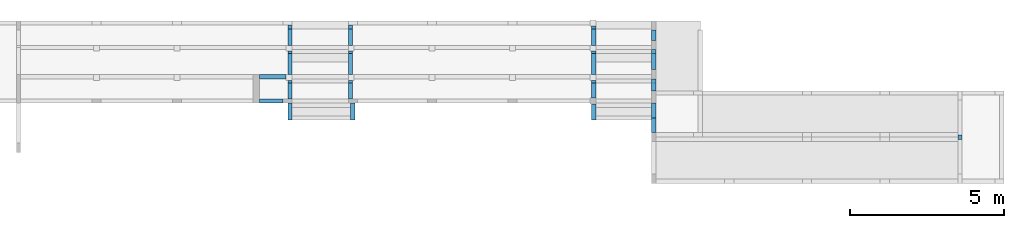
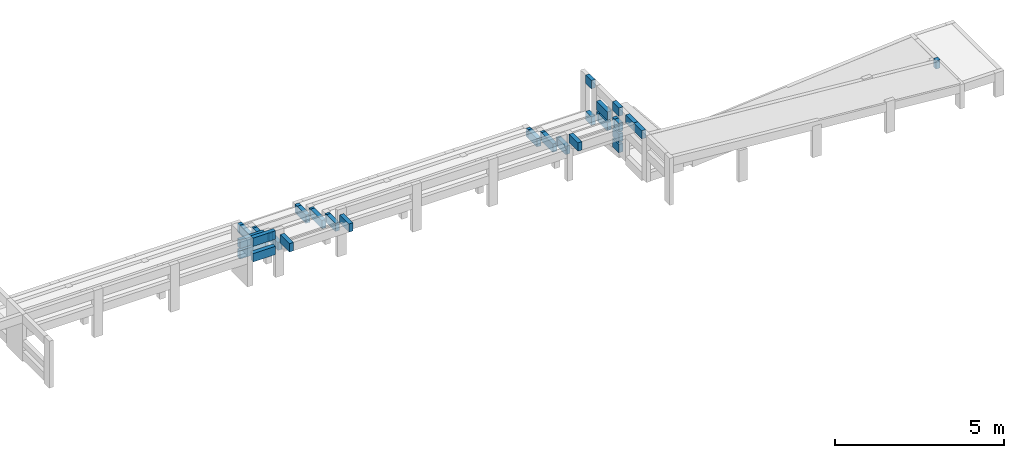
# One storey, part 7 of 9: 38 beams.
"""IFC4 building model written with IfcOpenShell, lengths in centimetres."""

from ifc_helpers import new_model, si_unit, derived_unit, frame, origin_with_axes, origin_2d_with_axis, place, context, project, spatial, rectangle, extrude, material, element, save


model = new_model("IFC4")

# Units and contexts
model_context = context("Model", 3, precision=1e-05, world=origin_with_axes(), identifier="Body")
ifc_project = project(units=[si_unit("LENGTHUNIT", "METRE", prefix="CENTI"), si_unit("VOLUMEUNIT", "CUBIC_METRE"), si_unit("AREAUNIT", "SQUARE_METRE"), si_unit("POWERUNIT", "WATT"), si_unit("LUMINOUSFLUXUNIT", "LUMEN"), si_unit("ELECTRICCURRENTUNIT", "AMPERE"), si_unit("PRESSUREUNIT", "PASCAL", prefix="KILO"), si_unit("MASSUNIT", "GRAM", prefix="KILO"), si_unit("PLANEANGLEUNIT", "RADIAN"), derived_unit("VOLUMETRICFLOWRATEUNIT", [(si_unit("LENGTHUNIT", "METRE"), 3), (si_unit("TIMEUNIT", "SECOND"), -1)])], contexts=[model_context])

# Site, building, storey
site_placement = place(None, origin_with_axes())
site = spatial("IfcSite", under=ifc_project, at=site_placement)
building_placement = place(site_placement, frame((0.0, 0.0, -170.0)))
building = spatial("IfcBuilding", under=site, at=building_placement)
placement = place(building_placement, origin_with_axes())
storey_placement = place(placement, frame((0.0, 0.0, 170.0), z_axis=(0.0, 0.0, 1.0), x_axis=(1.0, 0.0, 0.0)))
storey = spatial("IfcBuildingStorey", under=building, at=storey_placement, Name="Arquibancada", CompositionType="ELEMENT", Elevation=0.0)

# Beams
ifc_material = material(Name="Concreto")
beam_1_placement = place(storey_placement, frame((4820.12, 52.25, 0.0), z_axis=(0.0, 0.0, 1.0), x_axis=(1.0, 0.0, 0.0)))
element("IfcBeam", 1, at=beam_1_placement, inside=storey, material=ifc_material, Name="V10", context=model_context, shape_type="SolidModel", body=[
    extrude(rectangle(XDim=14.0, YDim=30.0, at=origin_2d_with_axis()), frame((0.0, -23.75, -15.0), z_axis=(0.0, 1.0, 0.0), x_axis=(1.0, 0.0, 0.0)), (0.0, 0.0, 1.0), 47.5),
])
beam_2_placement = place(storey_placement, frame((4820.12, 345.0, 0.0), z_axis=(0.0, 0.0, 1.0), x_axis=(1.0, 0.0, 0.0)))
element("IfcBeam", 2, at=beam_2_placement, inside=storey, material=ifc_material, Name="V10", context=model_context, shape_type="SolidModel", body=[
    extrude(rectangle(XDim=14.0, YDim=30.0, at=origin_2d_with_axis()), frame((0.0, -17.0, -15.0), z_axis=(0.0, 1.0, 0.0), x_axis=(1.0, 0.0, 0.0)), (0.0, 0.0, 1.0), 34.0),
])
beam_3_placement = place(storey_placement, frame((4820.12, 183.5, 0.0), z_axis=(0.0, 0.0, 1.0), x_axis=(1.0, 0.0, 0.0)))
element("IfcBeam", 3, at=beam_3_placement, inside=storey, material=ifc_material, Name="V10", context=model_context, shape_type="SolidModel", body=[
    extrude(rectangle(XDim=14.0, YDim=30.0, at=origin_2d_with_axis()), frame((0.0, -19.5, -15.0), z_axis=(0.0, 1.0, 0.0), x_axis=(1.0, 0.0, 0.0)), (0.0, 0.0, 1.0), 39.0),
])
beam_4_placement = place(storey_placement, frame((4820.12, 100.0, 0.0), z_axis=(0.0, 0.0, 1.0), x_axis=(1.0, 0.0, 0.0)))
element("IfcBeam", 4, at=beam_4_placement, inside=storey, material=ifc_material, Name="V10", context=model_context, shape_type="SolidModel", body=[
    extrude(rectangle(XDim=14.0, YDim=30.0, at=origin_2d_with_axis()), frame((0.0, -24.0, -15.0), z_axis=(0.0, 1.0, 0.0), x_axis=(1.0, 0.0, 0.0)), (0.0, 0.0, 1.0), 48.0),
])
beam_5_placement = place(storey_placement, frame((4624.62, 338.5, -132.0), z_axis=(0.0, 0.0, 1.0), x_axis=(1.0, 0.0, 0.0)))
element("IfcBeam", 5, at=beam_5_placement, inside=storey, material=ifc_material, Name="V100", context=model_context, shape_type="SolidModel", body=[
    extrude(rectangle(XDim=14.0, YDim=30.0, at=origin_2d_with_axis()), frame((0.0, -26.5, -15.0), z_axis=(0.0, 1.0, 0.0), x_axis=(1.0, 0.0, 0.0)), (0.0, 0.0, 1.0), 53.0),
])
beam_6_placement = place(storey_placement, frame((4624.62, 370.25, -132.0), z_axis=(0.0, 0.0, 1.0), x_axis=(1.0, 0.0, 0.0)))
element("IfcBeam", 6, at=beam_6_placement, inside=storey, material=ifc_material, Name="V100", context=model_context, shape_type="SolidModel", body=[
    extrude(rectangle(XDim=14.0, YDim=30.0, at=origin_2d_with_axis()), frame((0.0, -5.25, -15.0), z_axis=(0.0, 1.0, 0.0), x_axis=(1.0, 0.0, 0.0)), (0.0, 0.0, 1.0), 10.5),
])
beam_7_placement = place(storey_placement, frame((3637.09, 371.5, -132.0), z_axis=(0.0, 0.0, 1.0), x_axis=(1.0, 0.0, 0.0)))
element("IfcBeam", 7, at=beam_7_placement, inside=storey, material=ifc_material, Name="V101", context=model_context, shape_type="SolidModel", body=[
    extrude(rectangle(XDim=14.0, YDim=30.0, at=origin_2d_with_axis()), frame((0.0, -6.5, -15.0), z_axis=(0.0, 1.0, 0.0), x_axis=(1.0, 0.0, 0.0)), (0.0, 0.0, 1.0), 13.0),
])
beam_8_placement = place(storey_placement, frame((3637.09, 338.5, -132.0), z_axis=(0.0, 0.0, 1.0), x_axis=(1.0, 0.0, 0.0)))
element("IfcBeam", 8, at=beam_8_placement, inside=storey, material=ifc_material, Name="V101", context=model_context, shape_type="SolidModel", body=[
    extrude(rectangle(XDim=14.0, YDim=30.0, at=origin_2d_with_axis()), frame((0.0, -26.5, -15.0), z_axis=(0.0, 1.0, 0.0), x_axis=(1.0, 0.0, 0.0)), (0.0, 0.0, 1.0), 53.0),
])
beam_9_placement = place(storey_placement, frame((3834.09, 371.5, -132.0), z_axis=(0.0, 0.0, 1.0), x_axis=(1.0, 0.0, 0.0)))
element("IfcBeam", 9, at=beam_9_placement, inside=storey, material=ifc_material, Name="V102", context=model_context, shape_type="SolidModel", body=[
    extrude(rectangle(XDim=14.0, YDim=30.0, at=origin_2d_with_axis()), frame((0.0, -6.5, -15.0), z_axis=(0.0, 1.0, 0.0), x_axis=(1.0, 0.0, 0.0)), (0.0, 0.0, 1.0), 13.0),
])
beam_10_placement = place(storey_placement, frame((3834.09, 338.5, -132.0), z_axis=(0.0, 0.0, 1.0), x_axis=(1.0, 0.0, 0.0)))
element("IfcBeam", 10, at=beam_10_placement, inside=storey, material=ifc_material, Name="V102", context=model_context, shape_type="SolidModel", body=[
    extrude(rectangle(XDim=14.0, YDim=30.0, at=origin_2d_with_axis()), frame((0.0, -26.5, -15.0), z_axis=(0.0, 1.0, 0.0), x_axis=(1.0, 0.0, 0.0)), (0.0, 0.0, 1.0), 53.0),
])
beam_11_placement = place(storey_placement, frame((3581.325, 210.0, -56.0), z_axis=(0.0, 0.0, 1.0), x_axis=(1.0, 0.0, 0.0)))
element("IfcBeam", 11, at=beam_11_placement, inside=storey, material=ifc_material, Name="V20", context=model_context, shape_type="SolidModel", body=[
    extrude(rectangle(XDim=14.0, YDim=30.0, at=origin_2d_with_axis()), frame((-43.765, 0.0, -15.0), z_axis=(1.0, 0.0, 0.0), x_axis=(0.0, 1.0, 0.0)), (0.0, 0.0, 1.0), 87.53),
])
beam_12_placement = place(storey_placement, frame((3575.825, 131.0, -56.0), z_axis=(0.0, 0.0, 1.0), x_axis=(1.0, 0.0, 0.0)))
element("IfcBeam", 12, at=beam_12_placement, inside=storey, material=ifc_material, Name="V24", context=model_context, shape_type="SolidModel", body=[
    extrude(rectangle(XDim=14.0, YDim=30.0, at=origin_2d_with_axis()), frame((-38.265, 0.0, -15.0), z_axis=(1.0, 0.0, 0.0), x_axis=(0.0, 1.0, 0.0)), (0.0, 0.0, 1.0), 76.53),
])
beam_13_placement = place(storey_placement, frame((4820.12, 196.565, -56.0), z_axis=(0.0, 0.0, 1.0), x_axis=(1.0, 0.0, 0.0)))
element("IfcBeam", 13, at=beam_13_placement, inside=storey, material=ifc_material, Name="V31", context=model_context, shape_type="SolidModel", body=[
    extrude(rectangle(XDim=14.0, YDim=30.0, at=origin_2d_with_axis()), frame((0.0, -6.435, -15.0), z_axis=(0.0, 1.0, 0.0), x_axis=(1.0, 0.0, 0.0)), (0.0, 0.0, 1.0), 12.87),
])
beam_14_placement = place(storey_placement, frame((4820.12, 265.5, -56.0), z_axis=(0.0, 0.0, 1.0), x_axis=(1.0, 0.0, 0.0)))
element("IfcBeam", 14, at=beam_14_placement, inside=storey, material=ifc_material, Name="V31", context=model_context, shape_type="SolidModel", body=[
    extrude(rectangle(XDim=14.0, YDim=30.0, at=origin_2d_with_axis()), frame((0.0, -32.5, -15.0), z_axis=(0.0, 1.0, 0.0), x_axis=(1.0, 0.0, 0.0)), (0.0, 0.0, 1.0), 65.0),
])
beam_15_placement = place(storey_placement, frame((4820.12, 177.065, -56.0), z_axis=(0.0, 0.0, 1.0), x_axis=(1.0, 0.0, 0.0)))
element("IfcBeam", 15, at=beam_15_placement, inside=storey, material=ifc_material, Name="V31", context=model_context, shape_type="SolidModel", body=[
    extrude(rectangle(XDim=14.0, YDim=30.0, at=origin_2d_with_axis()), frame((0.0, -13.065, -15.0), z_axis=(0.0, 1.0, 0.0), x_axis=(1.0, 0.0, 0.0)), (0.0, 0.0, 1.0), 26.13),
])
beam_16_placement = place(storey_placement, frame((3581.325, 210.0, -94.0), z_axis=(0.0, 0.0, 1.0), x_axis=(1.0, 0.0, 0.0)))
element("IfcBeam", 16, at=beam_16_placement, inside=storey, material=ifc_material, Name="V38", context=model_context, shape_type="SolidModel", body=[
    extrude(rectangle(XDim=14.0, YDim=30.0, at=origin_2d_with_axis()), frame((-43.765, 0.0, -15.0), z_axis=(1.0, 0.0, 0.0), x_axis=(0.0, 1.0, 0.0)), (0.0, 0.0, 1.0), 87.53),
])
beam_17_placement = place(storey_placement, frame((3575.825, 131.0, 0.0), z_axis=(0.0, 0.0, 1.0), x_axis=(1.0, 0.0, 0.0)))
element("IfcBeam", 17, at=beam_17_placement, inside=storey, material=ifc_material, Name="V4", context=model_context, shape_type="SolidModel", body=[
    extrude(rectangle(XDim=14.0, YDim=30.0, at=origin_2d_with_axis()), frame((-38.265, 0.0, -15.0), z_axis=(1.0, 0.0, 0.0), x_axis=(0.0, 1.0, 0.0)), (0.0, 0.0, 1.0), 76.53),
])
beam_18_placement = place(storey_placement, frame((4820.12, 183.5, -94.0), z_axis=(0.0, 0.0, 1.0), x_axis=(1.0, 0.0, 0.0)))
element("IfcBeam", 18, at=beam_18_placement, inside=storey, material=ifc_material, Name="V45", context=model_context, shape_type="SolidModel", body=[
    extrude(rectangle(XDim=14.0, YDim=30.0, at=origin_2d_with_axis()), frame((0.0, -19.5, -15.0), z_axis=(0.0, 1.0, 0.0), x_axis=(1.0, 0.0, 0.0)), (0.0, 0.0, 1.0), 39.0),
])
beam_19_placement = place(storey_placement, frame((4820.12, 291.5, -94.0), z_axis=(0.0, 0.0, 1.0), x_axis=(1.0, 0.0, 0.0)))
element("IfcBeam", 19, at=beam_19_placement, inside=storey, material=ifc_material, Name="V45", context=model_context, shape_type="SolidModel", body=[
    extrude(rectangle(XDim=14.0, YDim=30.0, at=origin_2d_with_axis()), frame((0.0, -6.5, -15.0), z_axis=(0.0, 1.0, 0.0), x_axis=(1.0, 0.0, 0.0)), (0.0, 0.0, 1.0), 13.0),
])
beam_20_placement = place(storey_placement, frame((4820.12, 259.0, -94.0), z_axis=(0.0, 0.0, 1.0), x_axis=(1.0, 0.0, 0.0)))
element("IfcBeam", 20, at=beam_20_placement, inside=storey, material=ifc_material, Name="V45", context=model_context, shape_type="SolidModel", body=[
    extrude(rectangle(XDim=14.0, YDim=30.0, at=origin_2d_with_axis()), frame((0.0, -26.0, -15.0), z_axis=(0.0, 1.0, 0.0), x_axis=(1.0, 0.0, 0.0)), (0.0, 0.0, 1.0), 52.0),
])
beam_21_placement = place(storey_placement, frame((5815.12, 14.0, -82.0), z_axis=(0.0, 0.0, 1.0), x_axis=(1.0, 0.0, 0.0)))
element("IfcBeam", 21, at=beam_21_placement, inside=storey, material=ifc_material, Name="V46", context=model_context, shape_type="SolidModel", body=[
    extrude(rectangle(XDim=14.0, YDim=30.0, at=origin_2d_with_axis()), frame((0.0, -7.5, -15.0), z_axis=(0.0, 1.0, 0.0), x_axis=(1.0, 0.0, 0.0)), (0.0, 0.0, 1.0), 15.0),
])
beam_22_placement = place(storey_placement, frame((4820.12, 183.5, -132.0), z_axis=(0.0, 0.0, 1.0), x_axis=(1.0, 0.0, 0.0)))
element("IfcBeam", 22, at=beam_22_placement, inside=storey, material=ifc_material, Name="V64", context=model_context, shape_type="SolidModel", body=[
    extrude(rectangle(XDim=14.0, YDim=30.0, at=origin_2d_with_axis()), frame((0.0, -19.5, -15.0), z_axis=(0.0, 1.0, 0.0), x_axis=(1.0, 0.0, 0.0)), (0.0, 0.0, 1.0), 39.0),
])
beam_23_placement = place(storey_placement, frame((4820.12, 345.0, -132.0), z_axis=(0.0, 0.0, 1.0), x_axis=(1.0, 0.0, 0.0)))
element("IfcBeam", 23, at=beam_23_placement, inside=storey, material=ifc_material, Name="V64", context=model_context, shape_type="SolidModel", body=[
    extrude(rectangle(XDim=14.0, YDim=30.0, at=origin_2d_with_axis()), frame((0.0, -17.0, -15.0), z_axis=(0.0, 1.0, 0.0), x_axis=(1.0, 0.0, 0.0)), (0.0, 0.0, 1.0), 34.0),
])
beam_24_placement = place(storey_placement, frame((4624.62, 95.25, 0.0), z_axis=(0.0, 0.0, 1.0), x_axis=(1.0, 0.0, 0.0)))
element("IfcBeam", 24, at=beam_24_placement, inside=storey, material=ifc_material, Name="V77", context=model_context, shape_type="SolidModel", body=[
    extrude(rectangle(XDim=14.0, YDim=30.0, at=origin_2d_with_axis()), frame((0.0, -26.25, -15.0), z_axis=(0.0, 1.0, 0.0), x_axis=(1.0, 0.0, 0.0)), (0.0, 0.0, 1.0), 52.5),
])
for number, where, z_axis, x_axis, name in (
    (25, (3637.09, 96.5, -19.0), (0.0, 0.0, 1.0), (1.0, 0.0, 0.0), "V83"),
    (26, (3841.09, 96.5, -19.0), (0.0, 0.0, 1.0), (1.0, 0.0, 0.0), "V84"),
):
    element("IfcBeam", number, at=place(storey_placement, frame(where, z_axis=z_axis, x_axis=x_axis)), inside=storey, material=ifc_material, Name=name, context=model_context, shape_type="SolidModel", body=[
        extrude(rectangle(XDim=14.0, YDim=30.0, at=origin_2d_with_axis()), frame((0.0, -27.5, -15.0), z_axis=(0.0, 1.0, 0.0), x_axis=(1.0, 0.0, 0.0)), (0.0, 0.0, 1.0), 55.0),
    ])
beam_25_placement = place(storey_placement, frame((3637.09, 164.0, -56.0), z_axis=(0.0, 0.0, 1.0), x_axis=(1.0, 0.0, 0.0)))
element("IfcBeam", 27, at=beam_25_placement, inside=storey, material=ifc_material, Name="V90", context=model_context, shape_type="SolidModel", body=[
    extrude(rectangle(XDim=14.0, YDim=30.0, at=origin_2d_with_axis()), frame((0.0, -26.0, -15.0), z_axis=(0.0, 1.0, 0.0), x_axis=(1.0, 0.0, 0.0)), (0.0, 0.0, 1.0), 52.0),
])
beam_26_placement = place(storey_placement, frame((3637.09, 194.0, -56.0), z_axis=(0.0, 0.0, 1.0), x_axis=(1.0, 0.0, 0.0)))
element("IfcBeam", 28, at=beam_26_placement, inside=storey, material=ifc_material, Name="V90", context=model_context, shape_type="SolidModel", body=[
    extrude(rectangle(XDim=14.0, YDim=30.0, at=origin_2d_with_axis()), frame((0.0, -4.0, -15.0), z_axis=(0.0, 1.0, 0.0), x_axis=(1.0, 0.0, 0.0)), (0.0, 0.0, 1.0), 8.0),
])
beam_27_placement = place(storey_placement, frame((3834.09, 164.0, -56.0), z_axis=(0.0, 0.0, 1.0), x_axis=(1.0, 0.0, 0.0)))
element("IfcBeam", 29, at=beam_27_placement, inside=storey, material=ifc_material, Name="V91", context=model_context, shape_type="SolidModel", body=[
    extrude(rectangle(XDim=14.0, YDim=30.0, at=origin_2d_with_axis()), frame((0.0, -26.0, -15.0), z_axis=(0.0, 1.0, 0.0), x_axis=(1.0, 0.0, 0.0)), (0.0, 0.0, 1.0), 52.0),
])
beam_28_placement = place(storey_placement, frame((3834.09, 194.0, -56.0), z_axis=(0.0, 0.0, 1.0), x_axis=(1.0, 0.0, 0.0)))
element("IfcBeam", 30, at=beam_28_placement, inside=storey, material=ifc_material, Name="V91", context=model_context, shape_type="SolidModel", body=[
    extrude(rectangle(XDim=14.0, YDim=30.0, at=origin_2d_with_axis()), frame((0.0, -4.0, -15.0), z_axis=(0.0, 1.0, 0.0), x_axis=(1.0, 0.0, 0.0)), (0.0, 0.0, 1.0), 8.0),
])
beam_29_placement = place(storey_placement, frame((4624.62, 165.315, -56.0), z_axis=(0.0, 0.0, 1.0), x_axis=(1.0, 0.0, 0.0)))
element("IfcBeam", 31, at=beam_29_placement, inside=storey, material=ifc_material, Name="V92", context=model_context, shape_type="SolidModel", body=[
    extrude(rectangle(XDim=14.0, YDim=30.0, at=origin_2d_with_axis()), frame((0.0, -24.815, -15.0), z_axis=(0.0, 1.0, 0.0), x_axis=(1.0, 0.0, 0.0)), (0.0, 0.0, 1.0), 49.63),
])
beam_30_placement = place(storey_placement, frame((4624.62, 194.065, -56.0), z_axis=(0.0, 0.0, 1.0), x_axis=(1.0, 0.0, 0.0)))
element("IfcBeam", 32, at=beam_30_placement, inside=storey, material=ifc_material, Name="V92", context=model_context, shape_type="SolidModel", body=[
    extrude(rectangle(XDim=14.0, YDim=30.0, at=origin_2d_with_axis()), frame((0.0, -3.935, -15.0), z_axis=(0.0, 1.0, 0.0), x_axis=(1.0, 0.0, 0.0)), (0.0, 0.0, 1.0), 7.87),
])
beam_31_placement = place(storey_placement, frame((4624.62, 289.0, -94.0), z_axis=(0.0, 0.0, 1.0), x_axis=(1.0, 0.0, 0.0)))
element("IfcBeam", 33, at=beam_31_placement, inside=storey, material=ifc_material, Name="V96", context=model_context, shape_type="SolidModel", body=[
    extrude(rectangle(XDim=14.0, YDim=30.0, at=origin_2d_with_axis()), frame((0.0, -4.0, -15.0), z_axis=(0.0, 1.0, 0.0), x_axis=(1.0, 0.0, 0.0)), (0.0, 0.0, 1.0), 8.0),
])
for number, where, z_axis, x_axis, name in (
    (34, (4624.62, 251.0, -94.0), (0.0, 0.0, 1.0), (1.0, 0.0, 0.0), "V96"),
    (35, (3834.09, 251.0, -94.0), (0.0, 0.0, 1.0), (1.0, 0.0, 0.0), "V97"),
):
    element("IfcBeam", number, at=place(storey_placement, frame(where, z_axis=z_axis, x_axis=x_axis)), inside=storey, material=ifc_material, Name=name, context=model_context, shape_type="SolidModel", body=[
        extrude(rectangle(XDim=14.0, YDim=30.0, at=origin_2d_with_axis()), frame((0.0, -34.0, -15.0), z_axis=(0.0, 1.0, 0.0), x_axis=(1.0, 0.0, 0.0)), (0.0, 0.0, 1.0), 68.0),
    ])
beam_32_placement = place(storey_placement, frame((3834.09, 289.0, -94.0), z_axis=(0.0, 0.0, 1.0), x_axis=(1.0, 0.0, 0.0)))
element("IfcBeam", 36, at=beam_32_placement, inside=storey, material=ifc_material, Name="V97", context=model_context, shape_type="SolidModel", body=[
    extrude(rectangle(XDim=14.0, YDim=30.0, at=origin_2d_with_axis()), frame((0.0, -4.0, -15.0), z_axis=(0.0, 1.0, 0.0), x_axis=(1.0, 0.0, 0.0)), (0.0, 0.0, 1.0), 8.0),
])
beam_33_placement = place(storey_placement, frame((3637.09, 251.0, -94.0), z_axis=(0.0, 0.0, 1.0), x_axis=(1.0, 0.0, 0.0)))
element("IfcBeam", 37, at=beam_33_placement, inside=storey, material=ifc_material, Name="V98", context=model_context, shape_type="SolidModel", body=[
    extrude(rectangle(XDim=14.0, YDim=30.0, at=origin_2d_with_axis()), frame((0.0, -34.0, -15.0), z_axis=(0.0, 1.0, 0.0), x_axis=(1.0, 0.0, 0.0)), (0.0, 0.0, 1.0), 68.0),
])
beam_34_placement = place(storey_placement, frame((3637.09, 289.0, -94.0), z_axis=(0.0, 0.0, 1.0), x_axis=(1.0, 0.0, 0.0)))
element("IfcBeam", 38, at=beam_34_placement, inside=storey, material=ifc_material, Name="V98", context=model_context, shape_type="SolidModel", body=[
    extrude(rectangle(XDim=14.0, YDim=30.0, at=origin_2d_with_axis()), frame((0.0, -4.0, -15.0), z_axis=(0.0, 1.0, 0.0), x_axis=(1.0, 0.0, 0.0)), (0.0, 0.0, 1.0), 8.0),
])

save(model, "model.ifc")
